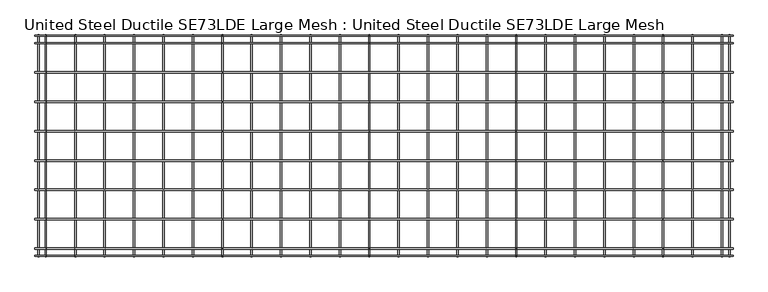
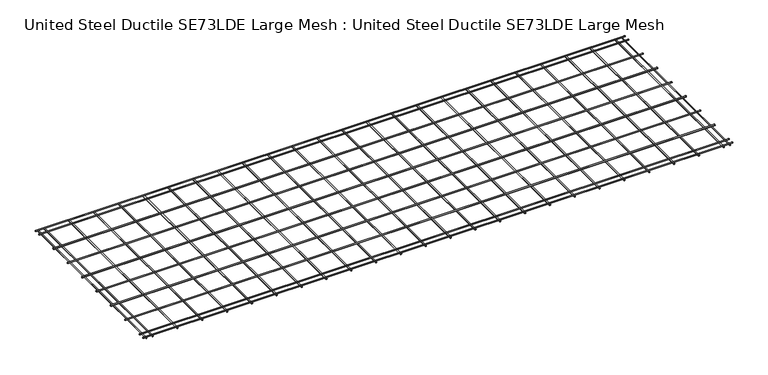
"""IFC4 building model written with IfcOpenShell, lengths in millimetres: proxy geometry, United Steel Ductile SE73LDE Large Mesh : United Steel Ductile SE73LDE Large Mesh."""

from ifc_helpers import new_model, si_unit, point, frame, frame_2d, origin, place, context, project, spatial, circle_curve, trimmed, segment, composite_curve, outline, extrude, source, transform, mapped, element, save


def united_steel_ductile_se73lde_large_mesh_united_steel_ductile_098b6dc6(model_context):
    return source(origin(), model_context, "Body", "SweptSolid", [
        extrude(outline(composite_curve([segment(trimmed(circle_curve(frame_2d((-1885.0, 21.4766977)), 7.5), [point((-1892.5, 21.4766977))], [point((-1877.5, 21.4766977))], False, "CARTESIAN"), True, "CONTINUOUS"), segment(trimmed(circle_curve(frame_2d((-1885.0, 21.4766977)), 7.5), [point((-1877.5, 21.4766977))], [point((-1892.5, 21.4766977))], False, "CARTESIAN"), True, "CONTINUOUS")], self_intersect=False)), frame((-6060.0, 0.0, 0.0), z_axis=(1.0, 0.0, 0.0), x_axis=(0.0, 1.0, 0.0)), (0.0, 0.0, 1.0), 7125.0),
        extrude(outline(composite_curve([segment(trimmed(circle_curve(frame_2d((-1585.0, 21.4766977)), 7.5), [point((-1592.5, 21.4766977))], [point((-1577.5, 21.4766977))], False, "CARTESIAN"), True, "CONTINUOUS"), segment(trimmed(circle_curve(frame_2d((-1585.0, 21.4766977)), 7.5), [point((-1577.5, 21.4766977))], [point((-1592.5, 21.4766977))], False, "CARTESIAN"), True, "CONTINUOUS")], self_intersect=False)), frame((-6060.0, 0.0, 0.0), z_axis=(1.0, 0.0, 0.0), x_axis=(0.0, 1.0, 0.0)), (0.0, 0.0, 1.0), 7125.0),
        extrude(outline(composite_curve([segment(trimmed(circle_curve(frame_2d((-1285.0, 21.4766977)), 7.5), [point((-1292.5, 21.4766977))], [point((-1277.5, 21.4766977))], False, "CARTESIAN"), True, "CONTINUOUS"), segment(trimmed(circle_curve(frame_2d((-1285.0, 21.4766977)), 7.5), [point((-1277.5, 21.4766977))], [point((-1292.5, 21.4766977))], False, "CARTESIAN"), True, "CONTINUOUS")], self_intersect=False)), frame((-6060.0, 0.0, 0.0), z_axis=(1.0, 0.0, 0.0), x_axis=(0.0, 1.0, 0.0)), (0.0, 0.0, 1.0), 7125.0),
        extrude(outline(composite_curve([segment(trimmed(circle_curve(frame_2d((-985.0, 21.4766977)), 7.5), [point((-992.5, 21.4766977))], [point((-977.5, 21.4766977))], False, "CARTESIAN"), True, "CONTINUOUS"), segment(trimmed(circle_curve(frame_2d((-985.0, 21.4766977)), 7.5), [point((-977.5, 21.4766977))], [point((-992.5, 21.4766977))], False, "CARTESIAN"), True, "CONTINUOUS")], self_intersect=False)), frame((-6060.0, 0.0, 0.0), z_axis=(1.0, 0.0, 0.0), x_axis=(0.0, 1.0, 0.0)), (0.0, 0.0, 1.0), 7125.0),
        extrude(outline(composite_curve([segment(trimmed(circle_curve(frame_2d((-685.0, 21.4766977)), 7.5), [point((-692.5, 21.4766977))], [point((-677.5, 21.4766977))], False, "CARTESIAN"), True, "CONTINUOUS"), segment(trimmed(circle_curve(frame_2d((-685.0, 21.4766977)), 7.5), [point((-677.5, 21.4766977))], [point((-692.5, 21.4766977))], False, "CARTESIAN"), True, "CONTINUOUS")], self_intersect=False)), frame((-6060.0, 0.0, 0.0), z_axis=(1.0, 0.0, 0.0), x_axis=(0.0, 1.0, 0.0)), (0.0, 0.0, 1.0), 7125.0),
        extrude(outline(composite_curve([segment(trimmed(circle_curve(frame_2d((-2260.0, 20.0808006)), 6.1), [point((-2266.1, 20.0808006))], [point((-2253.9, 20.0808006))], False, "CARTESIAN"), True, "CONTINUOUS"), segment(trimmed(circle_curve(frame_2d((-2260.0, 20.0808006)), 6.1), [point((-2253.9, 20.0808006))], [point((-2266.1, 20.0808006))], False, "CARTESIAN"), True, "CONTINUOUS")], self_intersect=False)), frame((-6060.0, 0.0, 0.0), z_axis=(1.0, 0.0, 0.0), x_axis=(0.0, 1.0, 0.0)), (0.0, 0.0, 1.0), 7125.0),
        extrude(outline(composite_curve([segment(trimmed(circle_curve(frame_2d((-2185.0, 20.0808006)), 6.1), [point((-2191.1, 20.0808006))], [point((-2178.9, 20.0808006))], False, "CARTESIAN"), True, "CONTINUOUS"), segment(trimmed(circle_curve(frame_2d((-2185.0, 20.0808006)), 6.1), [point((-2178.9, 20.0808006))], [point((-2191.1, 20.0808006))], False, "CARTESIAN"), True, "CONTINUOUS")], self_intersect=False)), frame((-6060.0, 0.0, 0.0), z_axis=(1.0, 0.0, 0.0), x_axis=(0.0, 1.0, 0.0)), (0.0, 0.0, 1.0), 7125.0),
        extrude(outline(composite_curve([segment(trimmed(circle_curve(frame_2d((-85.0, 20.0808006)), 6.1), [point((-91.1, 20.0808006))], [point((-78.9, 20.0808006))], False, "CARTESIAN"), True, "CONTINUOUS"), segment(trimmed(circle_curve(frame_2d((-85.0, 20.0808006)), 6.1), [point((-78.9, 20.0808006))], [point((-91.1, 20.0808006))], False, "CARTESIAN"), True, "CONTINUOUS")], self_intersect=False)), frame((-6060.0, 0.0, 0.0), z_axis=(1.0, 0.0, 0.0), x_axis=(0.0, 1.0, 0.0)), (0.0, 0.0, 1.0), 7125.0),
        extrude(outline(composite_curve([segment(trimmed(circle_curve(frame_2d((-385.0, 21.4766977)), 7.5), [point((-392.5, 21.4766977))], [point((-377.5, 21.4766977))], False, "CARTESIAN"), True, "CONTINUOUS"), segment(trimmed(circle_curve(frame_2d((-385.0, 21.4766977)), 7.5), [point((-377.5, 21.4766977))], [point((-392.5, 21.4766977))], False, "CARTESIAN"), True, "CONTINUOUS")], self_intersect=False)), frame((-6060.0, 0.0, 0.0), z_axis=(1.0, 0.0, 0.0), x_axis=(0.0, 1.0, 0.0)), (0.0, 0.0, 1.0), 7125.0),
        extrude(outline(composite_curve([segment(trimmed(circle_curve(frame_2d((7.8579008, 952.0)), 6.1), [point((7.8579008, 945.9))], [point((7.8579008, 958.1))], False, "CARTESIAN"), True, "CONTINUOUS"), segment(trimmed(circle_curve(frame_2d((7.8579008, 952.0)), 6.1), [point((7.8579008, 958.1))], [point((7.8579008, 945.9))], False, "CARTESIAN"), True, "CONTINUOUS")], self_intersect=False)), frame((0.0, -2270.0, 0.0), z_axis=(0.0, 1.0, 0.0), x_axis=(0.0, 0.0, 1.0)), (0.0, 0.0, 1.0), 2270.0),
        extrude(outline(composite_curve([segment(trimmed(circle_curve(frame_2d((6.4697714, 652.0)), 7.5), [point((6.4697714, 644.5))], [point((6.4697714, 659.5))], False, "CARTESIAN"), True, "CONTINUOUS"), segment(trimmed(circle_curve(frame_2d((6.4697714, 652.0)), 7.5), [point((6.4697714, 659.5))], [point((6.4697714, 644.5))], False, "CARTESIAN"), True, "CONTINUOUS")], self_intersect=False)), frame((0.0, -2270.0, 0.0), z_axis=(0.0, 1.0, 0.0), x_axis=(0.0, 0.0, 1.0)), (0.0, 0.0, 1.0), 2270.0),
        extrude(outline(composite_curve([segment(trimmed(circle_curve(frame_2d((6.4697714, 352.0)), 7.5), [point((6.4697714, 344.5))], [point((6.4697714, 359.5))], False, "CARTESIAN"), True, "CONTINUOUS"), segment(trimmed(circle_curve(frame_2d((6.4697714, 352.0)), 7.5), [point((6.4697714, 359.5))], [point((6.4697714, 344.5))], False, "CARTESIAN"), True, "CONTINUOUS")], self_intersect=False)), frame((0.0, -2270.0, 0.0), z_axis=(0.0, 1.0, 0.0), x_axis=(0.0, 0.0, 1.0)), (0.0, 0.0, 1.0), 2270.0),
        extrude(outline(composite_curve([segment(trimmed(circle_curve(frame_2d((6.4697714, 52.0)), 7.5), [point((6.4697714, 44.5))], [point((6.4697714, 59.5))], False, "CARTESIAN"), True, "CONTINUOUS"), segment(trimmed(circle_curve(frame_2d((6.4697714, 52.0)), 7.5), [point((6.4697714, 59.5))], [point((6.4697714, 44.5))], False, "CARTESIAN"), True, "CONTINUOUS")], self_intersect=False)), frame((0.0, -2270.0, 0.0), z_axis=(0.0, 1.0, 0.0), x_axis=(0.0, 0.0, 1.0)), (0.0, 0.0, 1.0), 2270.0),
        extrude(outline(composite_curve([segment(trimmed(circle_curve(frame_2d((6.4697714, -248.0)), 7.5), [point((6.4697714, -255.5))], [point((6.4697714, -240.5))], False, "CARTESIAN"), True, "CONTINUOUS"), segment(trimmed(circle_curve(frame_2d((6.4697714, -248.0)), 7.5), [point((6.4697714, -240.5))], [point((6.4697714, -255.5))], False, "CARTESIAN"), True, "CONTINUOUS")], self_intersect=False)), frame((0.0, -2270.0, 0.0), z_axis=(0.0, 1.0, 0.0), x_axis=(0.0, 0.0, 1.0)), (0.0, 0.0, 1.0), 2270.0),
        extrude(outline(composite_curve([segment(trimmed(circle_curve(frame_2d((6.4697714, -548.0)), 7.5), [point((6.4697714, -555.5))], [point((6.4697714, -540.5))], False, "CARTESIAN"), True, "CONTINUOUS"), segment(trimmed(circle_curve(frame_2d((6.4697714, -548.0)), 7.5), [point((6.4697714, -540.5))], [point((6.4697714, -555.5))], False, "CARTESIAN"), True, "CONTINUOUS")], self_intersect=False)), frame((0.0, -2270.0, 0.0), z_axis=(0.0, 1.0, 0.0), x_axis=(0.0, 0.0, 1.0)), (0.0, 0.0, 1.0), 2270.0),
        extrude(outline(composite_curve([segment(trimmed(circle_curve(frame_2d((6.4697714, -848.0)), 7.5), [point((6.4697714, -855.5))], [point((6.4697714, -840.5))], False, "CARTESIAN"), True, "CONTINUOUS"), segment(trimmed(circle_curve(frame_2d((6.4697714, -848.0)), 7.5), [point((6.4697714, -840.5))], [point((6.4697714, -855.5))], False, "CARTESIAN"), True, "CONTINUOUS")], self_intersect=False)), frame((0.0, -2270.0, 0.0), z_axis=(0.0, 1.0, 0.0), x_axis=(0.0, 0.0, 1.0)), (0.0, 0.0, 1.0), 2270.0),
        extrude(outline(composite_curve([segment(trimmed(circle_curve(frame_2d((6.4697714, -1148.0)), 7.5), [point((6.4697714, -1155.5))], [point((6.4697714, -1140.5))], False, "CARTESIAN"), True, "CONTINUOUS"), segment(trimmed(circle_curve(frame_2d((6.4697714, -1148.0)), 7.5), [point((6.4697714, -1140.5))], [point((6.4697714, -1155.5))], False, "CARTESIAN"), True, "CONTINUOUS")], self_intersect=False)), frame((0.0, -2270.0, 0.0), z_axis=(0.0, 1.0, 0.0), x_axis=(0.0, 0.0, 1.0)), (0.0, 0.0, 1.0), 2270.0),
        extrude(outline(composite_curve([segment(trimmed(circle_curve(frame_2d((6.4697714, -1448.0)), 7.5), [point((6.4697714, -1455.5))], [point((6.4697714, -1440.5))], False, "CARTESIAN"), True, "CONTINUOUS"), segment(trimmed(circle_curve(frame_2d((6.4697714, -1448.0)), 7.5), [point((6.4697714, -1440.5))], [point((6.4697714, -1455.5))], False, "CARTESIAN"), True, "CONTINUOUS")], self_intersect=False)), frame((0.0, -2270.0, 0.0), z_axis=(0.0, 1.0, 0.0), x_axis=(0.0, 0.0, 1.0)), (0.0, 0.0, 1.0), 2270.0),
        extrude(outline(composite_curve([segment(trimmed(circle_curve(frame_2d((6.4697714, -1748.0)), 7.5), [point((6.4697714, -1755.5))], [point((6.4697714, -1740.5))], False, "CARTESIAN"), True, "CONTINUOUS"), segment(trimmed(circle_curve(frame_2d((6.4697714, -1748.0)), 7.5), [point((6.4697714, -1740.5))], [point((6.4697714, -1755.5))], False, "CARTESIAN"), True, "CONTINUOUS")], self_intersect=False)), frame((0.0, -2270.0, 0.0), z_axis=(0.0, 1.0, 0.0), x_axis=(0.0, 0.0, 1.0)), (0.0, 0.0, 1.0), 2270.0),
        extrude(outline(composite_curve([segment(trimmed(circle_curve(frame_2d((6.4697714, -2048.0)), 7.5), [point((6.4697714, -2055.5))], [point((6.4697714, -2040.5))], False, "CARTESIAN"), True, "CONTINUOUS"), segment(trimmed(circle_curve(frame_2d((6.4697714, -2048.0)), 7.5), [point((6.4697714, -2040.5))], [point((6.4697714, -2055.5))], False, "CARTESIAN"), True, "CONTINUOUS")], self_intersect=False)), frame((0.0, -2270.0, 0.0), z_axis=(0.0, 1.0, 0.0), x_axis=(0.0, 0.0, 1.0)), (0.0, 0.0, 1.0), 2270.0),
        extrude(outline(composite_curve([segment(trimmed(circle_curve(frame_2d((6.4697714, -2348.0)), 7.5), [point((6.4697714, -2355.5))], [point((6.4697714, -2340.5))], False, "CARTESIAN"), True, "CONTINUOUS"), segment(trimmed(circle_curve(frame_2d((6.4697714, -2348.0)), 7.5), [point((6.4697714, -2340.5))], [point((6.4697714, -2355.5))], False, "CARTESIAN"), True, "CONTINUOUS")], self_intersect=False)), frame((0.0, -2270.0, 0.0), z_axis=(0.0, 1.0, 0.0), x_axis=(0.0, 0.0, 1.0)), (0.0, 0.0, 1.0), 2270.0),
        extrude(outline(composite_curve([segment(trimmed(circle_curve(frame_2d((6.4697714, -2648.0)), 7.5), [point((6.4697714, -2655.5))], [point((6.4697714, -2640.5))], False, "CARTESIAN"), True, "CONTINUOUS"), segment(trimmed(circle_curve(frame_2d((6.4697714, -2648.0)), 7.5), [point((6.4697714, -2640.5))], [point((6.4697714, -2655.5))], False, "CARTESIAN"), True, "CONTINUOUS")], self_intersect=False)), frame((0.0, -2270.0, 0.0), z_axis=(0.0, 1.0, 0.0), x_axis=(0.0, 0.0, 1.0)), (0.0, 0.0, 1.0), 2270.0),
        extrude(outline(composite_curve([segment(trimmed(circle_curve(frame_2d((6.4697714, -2948.0)), 7.5), [point((6.4697714, -2955.5))], [point((6.4697714, -2940.5))], False, "CARTESIAN"), True, "CONTINUOUS"), segment(trimmed(circle_curve(frame_2d((6.4697714, -2948.0)), 7.5), [point((6.4697714, -2940.5))], [point((6.4697714, -2955.5))], False, "CARTESIAN"), True, "CONTINUOUS")], self_intersect=False)), frame((0.0, -2270.0, 0.0), z_axis=(0.0, 1.0, 0.0), x_axis=(0.0, 0.0, 1.0)), (0.0, 0.0, 1.0), 2270.0),
        extrude(outline(composite_curve([segment(trimmed(circle_curve(frame_2d((6.4697714, -3248.0)), 7.5), [point((6.4697714, -3255.5))], [point((6.4697714, -3240.5))], False, "CARTESIAN"), True, "CONTINUOUS"), segment(trimmed(circle_curve(frame_2d((6.4697714, -3248.0)), 7.5), [point((6.4697714, -3240.5))], [point((6.4697714, -3255.5))], False, "CARTESIAN"), True, "CONTINUOUS")], self_intersect=False)), frame((0.0, -2270.0, 0.0), z_axis=(0.0, 1.0, 0.0), x_axis=(0.0, 0.0, 1.0)), (0.0, 0.0, 1.0), 2270.0),
        extrude(outline(composite_curve([segment(trimmed(circle_curve(frame_2d((6.4697714, -3548.0)), 7.5), [point((6.4697714, -3555.5))], [point((6.4697714, -3540.5))], False, "CARTESIAN"), True, "CONTINUOUS"), segment(trimmed(circle_curve(frame_2d((6.4697714, -3548.0)), 7.5), [point((6.4697714, -3540.5))], [point((6.4697714, -3555.5))], False, "CARTESIAN"), True, "CONTINUOUS")], self_intersect=False)), frame((0.0, -2270.0, 0.0), z_axis=(0.0, 1.0, 0.0), x_axis=(0.0, 0.0, 1.0)), (0.0, 0.0, 1.0), 2270.0),
        extrude(outline(composite_curve([segment(trimmed(circle_curve(frame_2d((6.4697714, -3848.0)), 7.5), [point((6.4697714, -3855.5))], [point((6.4697714, -3840.5))], False, "CARTESIAN"), True, "CONTINUOUS"), segment(trimmed(circle_curve(frame_2d((6.4697714, -3848.0)), 7.5), [point((6.4697714, -3840.5))], [point((6.4697714, -3855.5))], False, "CARTESIAN"), True, "CONTINUOUS")], self_intersect=False)), frame((0.0, -2270.0, 0.0), z_axis=(0.0, 1.0, 0.0), x_axis=(0.0, 0.0, 1.0)), (0.0, 0.0, 1.0), 2270.0),
        extrude(outline(composite_curve([segment(trimmed(circle_curve(frame_2d((6.4697714, -4148.0)), 7.5), [point((6.4697714, -4155.5))], [point((6.4697714, -4140.5))], False, "CARTESIAN"), True, "CONTINUOUS"), segment(trimmed(circle_curve(frame_2d((6.4697714, -4148.0)), 7.5), [point((6.4697714, -4140.5))], [point((6.4697714, -4155.5))], False, "CARTESIAN"), True, "CONTINUOUS")], self_intersect=False)), frame((0.0, -2270.0, 0.0), z_axis=(0.0, 1.0, 0.0), x_axis=(0.0, 0.0, 1.0)), (0.0, 0.0, 1.0), 2270.0),
        extrude(outline(composite_curve([segment(trimmed(circle_curve(frame_2d((6.4697714, -4448.0)), 7.5), [point((6.4697714, -4455.5))], [point((6.4697714, -4440.5))], False, "CARTESIAN"), True, "CONTINUOUS"), segment(trimmed(circle_curve(frame_2d((6.4697714, -4448.0)), 7.5), [point((6.4697714, -4440.5))], [point((6.4697714, -4455.5))], False, "CARTESIAN"), True, "CONTINUOUS")], self_intersect=False)), frame((0.0, -2270.0, 0.0), z_axis=(0.0, 1.0, 0.0), x_axis=(0.0, 0.0, 1.0)), (0.0, 0.0, 1.0), 2270.0),
        extrude(outline(composite_curve([segment(trimmed(circle_curve(frame_2d((6.4697714, -4748.0)), 7.5), [point((6.4697714, -4755.5))], [point((6.4697714, -4740.5))], False, "CARTESIAN"), True, "CONTINUOUS"), segment(trimmed(circle_curve(frame_2d((6.4697714, -4748.0)), 7.5), [point((6.4697714, -4740.5))], [point((6.4697714, -4755.5))], False, "CARTESIAN"), True, "CONTINUOUS")], self_intersect=False)), frame((0.0, -2270.0, 0.0), z_axis=(0.0, 1.0, 0.0), x_axis=(0.0, 0.0, 1.0)), (0.0, 0.0, 1.0), 2270.0),
        extrude(outline(composite_curve([segment(trimmed(circle_curve(frame_2d((6.4697714, -5048.0)), 7.5), [point((6.4697714, -5055.5))], [point((6.4697714, -5040.5))], False, "CARTESIAN"), True, "CONTINUOUS"), segment(trimmed(circle_curve(frame_2d((6.4697714, -5048.0)), 7.5), [point((6.4697714, -5040.5))], [point((6.4697714, -5055.5))], False, "CARTESIAN"), True, "CONTINUOUS")], self_intersect=False)), frame((0.0, -2270.0, 0.0), z_axis=(0.0, 1.0, 0.0), x_axis=(0.0, 0.0, 1.0)), (0.0, 0.0, 1.0), 2270.0),
        extrude(outline(composite_curve([segment(trimmed(circle_curve(frame_2d((6.4697714, -5348.0)), 7.5), [point((6.4697714, -5355.5))], [point((6.4697714, -5340.5))], False, "CARTESIAN"), True, "CONTINUOUS"), segment(trimmed(circle_curve(frame_2d((6.4697714, -5348.0)), 7.5), [point((6.4697714, -5340.5))], [point((6.4697714, -5355.5))], False, "CARTESIAN"), True, "CONTINUOUS")], self_intersect=False)), frame((0.0, -2270.0, 0.0), z_axis=(0.0, 1.0, 0.0), x_axis=(0.0, 0.0, 1.0)), (0.0, 0.0, 1.0), 2270.0),
        extrude(outline(composite_curve([segment(trimmed(circle_curve(frame_2d((6.4697714, -5648.0)), 7.5), [point((6.4697714, -5655.5))], [point((6.4697714, -5640.5))], False, "CARTESIAN"), True, "CONTINUOUS"), segment(trimmed(circle_curve(frame_2d((6.4697714, -5648.0)), 7.5), [point((6.4697714, -5640.5))], [point((6.4697714, -5655.5))], False, "CARTESIAN"), True, "CONTINUOUS")], self_intersect=False)), frame((0.0, -2270.0, 0.0), z_axis=(0.0, 1.0, 0.0), x_axis=(0.0, 0.0, 1.0)), (0.0, 0.0, 1.0), 2270.0),
        extrude(outline(composite_curve([segment(trimmed(circle_curve(frame_2d((7.887275, -5948.0)), 6.1), [point((7.887275, -5954.1))], [point((7.887275, -5941.9))], False, "CARTESIAN"), True, "CONTINUOUS"), segment(trimmed(circle_curve(frame_2d((7.887275, -5948.0)), 6.1), [point((7.887275, -5941.9))], [point((7.887275, -5954.1))], False, "CARTESIAN"), True, "CONTINUOUS")], self_intersect=False)), frame((0.0, -2270.0, 0.0), z_axis=(0.0, 1.0, 0.0), x_axis=(0.0, 0.0, 1.0)), (0.0, 0.0, 1.0), 2270.0),
        extrude(outline(composite_curve([segment(trimmed(circle_curve(frame_2d((-10.0, 20.0808006)), 6.1), [point((-16.1, 20.0808006))], [point((-3.9, 20.0808006))], False, "CARTESIAN"), True, "CONTINUOUS"), segment(trimmed(circle_curve(frame_2d((-10.0, 20.0808006)), 6.1), [point((-3.9, 20.0808006))], [point((-16.1, 20.0808006))], False, "CARTESIAN"), True, "CONTINUOUS")], self_intersect=False)), frame((-6060.0, 0.0, 0.0), z_axis=(1.0, 0.0, 0.0), x_axis=(0.0, 1.0, 0.0)), (0.0, 0.0, 1.0), 7125.0),
        extrude(outline(composite_curve([segment(trimmed(circle_curve(frame_2d((7.8746784, -6023.0)), 6.1), [point((7.8746784, -6029.1))], [point((7.8746784, -6016.9))], False, "CARTESIAN"), True, "CONTINUOUS"), segment(trimmed(circle_curve(frame_2d((7.8746784, -6023.0)), 6.1), [point((7.8746784, -6016.9))], [point((7.8746784, -6029.1))], False, "CARTESIAN"), True, "CONTINUOUS")], self_intersect=False)), frame((0.0, -2270.0, 0.0), z_axis=(0.0, 1.0, 0.0), x_axis=(0.0, 0.0, 1.0)), (0.0, 0.0, 1.0), 2270.0),
        extrude(outline(composite_curve([segment(trimmed(circle_curve(frame_2d((7.88873, 1028.0)), 6.1), [point((7.88873, 1021.9))], [point((7.88873, 1034.1))], False, "CARTESIAN"), True, "CONTINUOUS"), segment(trimmed(circle_curve(frame_2d((7.88873, 1028.0)), 6.1), [point((7.88873, 1034.1))], [point((7.88873, 1021.9))], False, "CARTESIAN"), True, "CONTINUOUS")], self_intersect=False)), frame((0.0, -2270.0, 0.0), z_axis=(0.0, 1.0, 0.0), x_axis=(0.0, 0.0, 1.0)), (0.0, 0.0, 1.0), 2270.0),
    ])


if __name__ == "__main__":
    model = new_model("IFC4")
    model_context = context("Model", 3, world=origin())
    ifc_project = project(units=[si_unit("LENGTHUNIT", "METRE", prefix="MILLI")], contexts=[model_context])
    site = spatial("IfcSite", under=ifc_project)
    building = spatial("IfcBuilding", under=site)
    placement = place(None, origin())
    united_steel_ductile_se73lde_large_mesh_united_steel_ductile_shape = united_steel_ductile_se73lde_large_mesh_united_steel_ductile_098b6dc6(model_context)
    element("IfcBuildingElementProxy", 1, Name="United Steel Ductile SE73LDE Large Mesh : United Steel Ductile SE73LDE Large Mesh", ObjectType="United Steel Ductile SE73LDE Large Mesh : United Steel Ductile SE73LDE Large Mesh", at=placement, inside=building, context=model_context, shape_type="MappedRepresentation", body=[
        mapped(united_steel_ductile_se73lde_large_mesh_united_steel_ductile_shape, transform((0.0, 0.0, 0.0), x_axis=(1.0, 0.0, 0.0), y_axis=(0.0, 1.0, 0.0), z_axis=(0.0, 0.0, 1.0))),
    ])
    save(model, "model.ifc")
